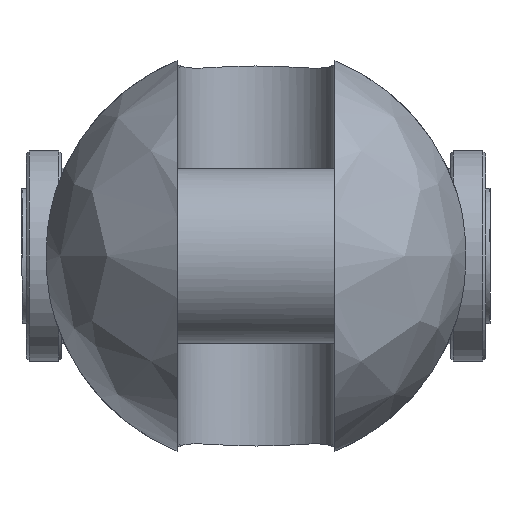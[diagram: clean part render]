
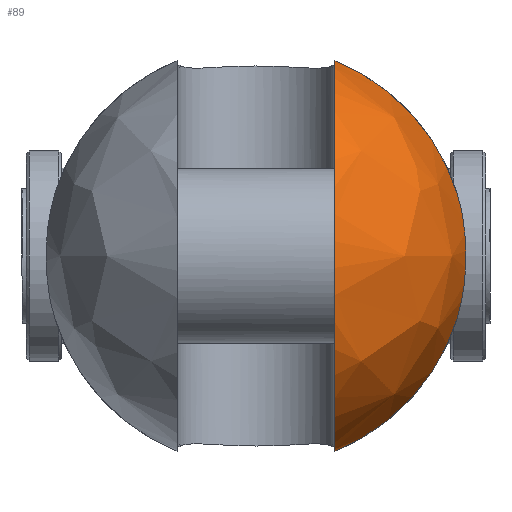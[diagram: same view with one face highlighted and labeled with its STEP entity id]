
A CAD part, left-side view. The second image highlights one B-rep face of the part: STEP entity #89.
In plain terms, the highlighted free-form (B-spline) face has degree [2, 2] with [9, 5] control points.
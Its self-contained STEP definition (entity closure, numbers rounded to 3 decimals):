
#89=ADVANCED_FACE('',(#164),#1306,.T.);
#164=FACE_OUTER_BOUND('',#249,.T.);
#249=EDGE_LOOP('',(#583,#584,#585,#586));
#583=ORIENTED_EDGE('',*,*,#807,.T.);
#584=ORIENTED_EDGE('',*,*,#835,.F.);
#585=ORIENTED_EDGE('',*,*,#847,.T.);
#586=ORIENTED_EDGE('',*,*,#827,.F.);
#807=EDGE_CURVE('',#1192,#1191,#1045,.T.);
#827=EDGE_CURVE('',#1192,#1204,#1055,.T.);
#835=EDGE_CURVE('',#1211,#1191,#1056,.T.);
#847=EDGE_CURVE('',#1211,#1204,#963,.T.);
#963=B_SPLINE_CURVE_WITH_KNOTS('',3,(#3120,#3121,#3122,#3123,#3124,#3125,
#3126,#3127,#3128,#3129,#3130,#3131,#3132,#3133),.UNSPECIFIED.,.F.,.F.,
(4,2,2,2,2,2,4),(0.,1.778,6.37,10.962,15.554,
20.146,21.924),.UNSPECIFIED.);
#1045=(
BOUNDED_CURVE()
B_SPLINE_CURVE(2,(#2896,#2897,#2898,#2899,#2900),.UNSPECIFIED.,.F.,.F.)
B_SPLINE_CURVE_WITH_KNOTS((3,2,3),(-104.844,-52.422,
0.),.UNSPECIFIED.)
CURVE()
GEOMETRIC_REPRESENTATION_ITEM()
RATIONAL_B_SPLINE_CURVE((1.,0.707,1.,0.707,1.))
REPRESENTATION_ITEM('')
);
#1055=(
BOUNDED_CURVE()
B_SPLINE_CURVE(2,(#2990,#2991,#2992),.UNSPECIFIED.,.F.,.F.)
B_SPLINE_CURVE_WITH_KNOTS((3,3),(0.,32.32),.UNSPECIFIED.)
CURVE()
GEOMETRIC_REPRESENTATION_ITEM()
RATIONAL_B_SPLINE_CURVE((1.,0.901,1.))
REPRESENTATION_ITEM('')
);
#1056=(
BOUNDED_CURVE()
B_SPLINE_CURVE(2,(#3047,#3048,#3049),.UNSPECIFIED.,.F.,.F.)
B_SPLINE_CURVE_WITH_KNOTS((3,3),(0.,32.32),.UNSPECIFIED.)
CURVE()
GEOMETRIC_REPRESENTATION_ITEM()
RATIONAL_B_SPLINE_CURVE((1.,0.901,1.))
REPRESENTATION_ITEM('')
);
#1191=VERTEX_POINT('',#2837);
#1192=VERTEX_POINT('',#2838);
#1204=VERTEX_POINT('',#2850);
#1211=VERTEX_POINT('',#2857);
#1306=(
BOUNDED_SURFACE()
B_SPLINE_SURFACE(2,2,((#2445,#2446,#2447,#2448,#2449),(#2450,#2451,#2452,
#2453,#2454),(#2455,#2456,#2457,#2458,#2459),(#2460,#2461,#2462,#2463,#2464),
(#2465,#2466,#2467,#2468,#2469),(#2470,#2471,#2472,#2473,#2474),(#2475,
#2476,#2477,#2478,#2479),(#2480,#2481,#2482,#2483,#2484),(#2485,#2486,#2487,
#2488,#2489)),.UNSPECIFIED.,.T.,.F.,.F.)
B_SPLINE_SURFACE_WITH_KNOTS((3,2,2,2,3),(3,2,3),(0.,56.549,113.097,
169.646,226.195),(0.,56.549,113.097),
 .UNSPECIFIED.)
GEOMETRIC_REPRESENTATION_ITEM()
RATIONAL_B_SPLINE_SURFACE(((1.,0.707,1.,0.707,1.),
(0.707,0.5,0.707,0.5,0.707),(1.,0.707,
1.,0.707,1.),(0.707,0.5,0.707,0.5,0.707),
(1.,0.707,1.,0.707,1.),(0.707,0.5,0.707,
0.5,0.707),(1.,0.707,1.,0.707,1.),(0.707,
0.5,0.707,0.5,0.707),(1.,0.707,1.,0.707,
1.)))
REPRESENTATION_ITEM('')
SURFACE()
);
#2445=CARTESIAN_POINT('',(-52.,0.,0.));
#2446=CARTESIAN_POINT('',(-52.,36.,0.));
#2447=CARTESIAN_POINT('',(-16.,36.,0.));
#2448=CARTESIAN_POINT('',(20.,36.,0.));
#2449=CARTESIAN_POINT('',(20.,0.,0.));
#2450=CARTESIAN_POINT('',(-52.,0.,0.));
#2451=CARTESIAN_POINT('',(-52.,36.,36.));
#2452=CARTESIAN_POINT('',(-16.,36.,36.));
#2453=CARTESIAN_POINT('',(20.,36.,36.));
#2454=CARTESIAN_POINT('',(20.,0.,0.));
#2455=CARTESIAN_POINT('',(-52.,0.,0.));
#2456=CARTESIAN_POINT('',(-52.,0.,36.));
#2457=CARTESIAN_POINT('',(-16.,0.,36.));
#2458=CARTESIAN_POINT('',(20.,0.,36.));
#2459=CARTESIAN_POINT('',(20.,0.,0.));
#2460=CARTESIAN_POINT('',(-52.,0.,0.));
#2461=CARTESIAN_POINT('',(-52.,-36.,36.));
#2462=CARTESIAN_POINT('',(-16.,-36.,36.));
#2463=CARTESIAN_POINT('',(20.,-36.,36.));
#2464=CARTESIAN_POINT('',(20.,0.,0.));
#2465=CARTESIAN_POINT('',(-52.,0.,0.));
#2466=CARTESIAN_POINT('',(-52.,-36.,0.));
#2467=CARTESIAN_POINT('',(-16.,-36.,0.));
#2468=CARTESIAN_POINT('',(20.,-36.,0.));
#2469=CARTESIAN_POINT('',(20.,0.,0.));
#2470=CARTESIAN_POINT('',(-52.,0.,0.));
#2471=CARTESIAN_POINT('',(-52.,-36.,-36.));
#2472=CARTESIAN_POINT('',(-16.,-36.,-36.));
#2473=CARTESIAN_POINT('',(20.,-36.,-36.));
#2474=CARTESIAN_POINT('',(20.,0.,0.));
#2475=CARTESIAN_POINT('',(-52.,0.,0.));
#2476=CARTESIAN_POINT('',(-52.,0.,-36.));
#2477=CARTESIAN_POINT('',(-16.,0.,-36.));
#2478=CARTESIAN_POINT('',(20.,0.,-36.));
#2479=CARTESIAN_POINT('',(20.,0.,0.));
#2480=CARTESIAN_POINT('',(-52.,0.,0.));
#2481=CARTESIAN_POINT('',(-52.,36.,-36.));
#2482=CARTESIAN_POINT('',(-16.,36.,-36.));
#2483=CARTESIAN_POINT('',(20.,36.,-36.));
#2484=CARTESIAN_POINT('',(20.,0.,0.));
#2485=CARTESIAN_POINT('',(-52.,0.,0.));
#2486=CARTESIAN_POINT('',(-52.,36.,0.));
#2487=CARTESIAN_POINT('',(-16.,36.,0.));
#2488=CARTESIAN_POINT('',(20.,36.,0.));
#2489=CARTESIAN_POINT('',(20.,0.,0.));
#2837=CARTESIAN_POINT('',(-16.,-13.5,-33.373));
#2838=CARTESIAN_POINT('',(-16.,-13.5,33.373));
#2850=CARTESIAN_POINT('',(-16.,-34.511,10.247));
#2857=CARTESIAN_POINT('',(-16.,-34.511,-10.247));
#2896=CARTESIAN_POINT('',(-16.,-13.5,33.373));
#2897=CARTESIAN_POINT('',(-49.373,-13.5,33.373));
#2898=CARTESIAN_POINT('',(-49.373,-13.5,0.));
#2899=CARTESIAN_POINT('',(-49.373,-13.5,-33.373));
#2900=CARTESIAN_POINT('',(-16.,-13.5,-33.373));
#2990=CARTESIAN_POINT('',(-16.,-13.5,33.373));
#2991=CARTESIAN_POINT('',(-16.,-29.575,26.87));
#2992=CARTESIAN_POINT('',(-16.,-34.511,10.247));
#3047=CARTESIAN_POINT('',(-16.,-34.511,-10.247));
#3048=CARTESIAN_POINT('',(-16.,-29.575,-26.87));
#3049=CARTESIAN_POINT('',(-16.,-13.5,-33.373));
#3120=CARTESIAN_POINT('',(-16.,-34.511,-10.247));
#3121=CARTESIAN_POINT('',(-16.313,-34.656,-9.758));
#3122=CARTESIAN_POINT('',(-16.605,-34.791,-9.252));
#3123=CARTESIAN_POINT('',(-17.569,-35.232,-7.391));
#3124=CARTESIAN_POINT('',(-18.107,-35.475,-5.952));
#3125=CARTESIAN_POINT('',(-18.823,-35.796,-3.));
#3126=CARTESIAN_POINT('',(-19.,-35.875,-1.485));
#3127=CARTESIAN_POINT('',(-19.,-35.875,1.485));
#3128=CARTESIAN_POINT('',(-18.823,-35.796,3.));
#3129=CARTESIAN_POINT('',(-18.107,-35.475,5.952));
#3130=CARTESIAN_POINT('',(-17.569,-35.232,7.391));
#3131=CARTESIAN_POINT('',(-16.605,-34.791,9.252));
#3132=CARTESIAN_POINT('',(-16.313,-34.656,9.758));
#3133=CARTESIAN_POINT('',(-16.,-34.511,10.247));
